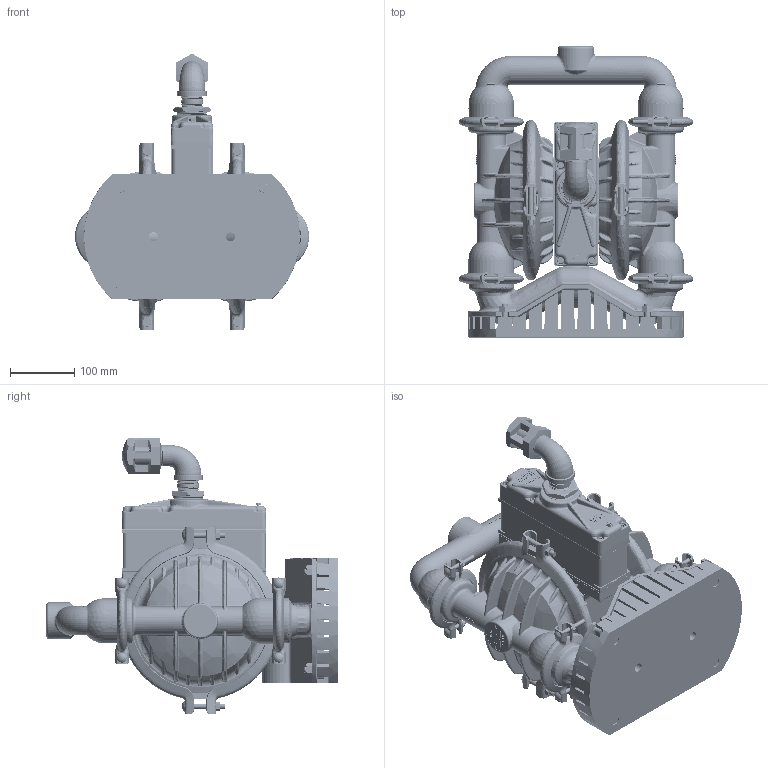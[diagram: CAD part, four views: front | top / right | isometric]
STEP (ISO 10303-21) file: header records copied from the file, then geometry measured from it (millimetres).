
FILE_DESCRIPTION (( 'STEP AP203' ), '1' );
FILE_NAME ('ps04_stallion_al_dc_cb_top.STEP', '2022-07-05T08:15:49', ( '' ), ( '' ), 'SwSTEP 2.0', 'SolidWorks 2019', '' );
FILE_SCHEMA (( 'CONFIG_CONTROL_DESIGN' ));
Products named in the file (1): ps04_stallion_al_dc_cb_top
Bounding box: 364.92 x 453.77 x 431.58 mm (x, y, z)
Volume: 12642731.3 mm3; surface area: 1128966.6 mm2
Topology: 1 solids, 1 shells, 11699 faces, 31635 edges, 20177 vertices
Faces by surface type: plane 7122, bspline 2410, cylinder 1046, cone 669, torus 333, sphere 119
Entity records: 822531 total; most frequent: CARTESIAN_POINT 553791, ORIENTED_EDGE 63222, DIRECTION 44628, EDGE_CURVE 31611, VERTEX_POINT 20169, LINE 17528, VECTOR 17528, AXIS2_PLACEMENT_3D 13550
